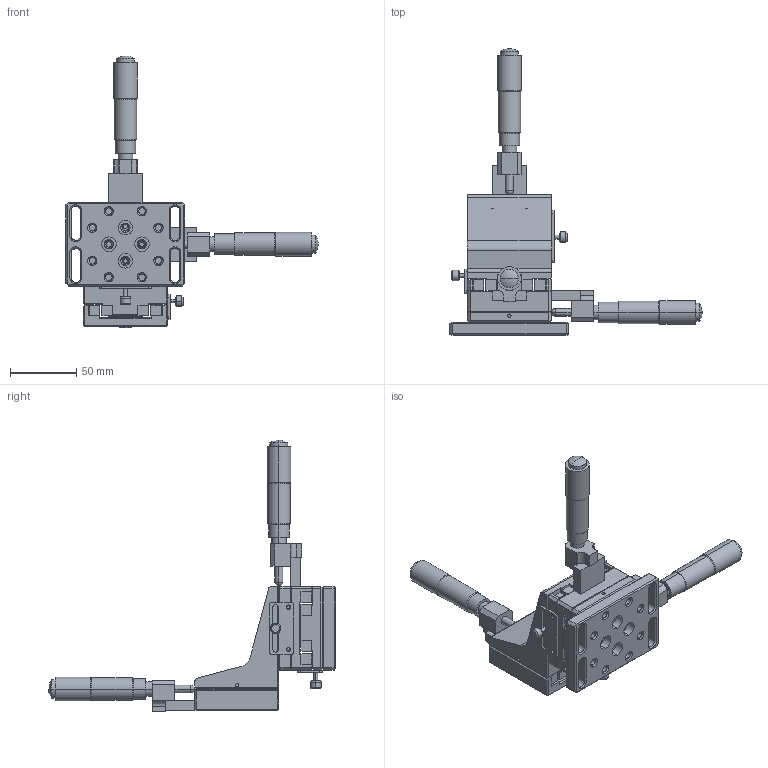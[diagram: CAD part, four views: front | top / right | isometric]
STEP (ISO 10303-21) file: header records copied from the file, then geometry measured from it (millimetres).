
FILE_DESCRIPTION (( 'STEP AP203' ), '1' );
FILE_NAME ('ST300-25H-1.STEP', '2017-12-26T10:29:12', ( 'PC' ), ( 'Microsoft' ), 'SwSTEP 2.0', 'SolidWorks 2015', '' );
FILE_SCHEMA (( 'CONFIG_CONTROL_DESIGN' ));
Length unit declared in the file: millimetre
Products named in the file (9): V3-60絳寢; ST300-25H -8眻褒輸; ST300-25H-11魂雄怢醱; ST300-25H-6峚煦芛釱; ST300-25H-菁啣; ST300-25H-2嘐隅啣; ST300-25-9癹弇え; ST300-25H-3笢潔啣; ST300-25H-1
Assembly tree (21 placements, depth 2):
  ST300-25H-1
    ST300-25H-菁啣
    ST300-25H-2嘐隅啣
    ST300-25H-3笢潔啣
    V3-60絳寢  x12
    ST300-25H -8眻褒輸
    ST300-25H-11魂雄怢醱
    ST300-25H-6峚煦芛釱
    ST300-25-9癹弇え  x3
Bounding box: 190.71 x 216.8 x 205.53 mm (x, y, z)
Volume: 418263.4 mm3; surface area: 149853.6 mm2
Topology: 27 solids, 30 shells, 965 faces, 2407 edges, 1530 vertices
Faces by surface type: plane 421, cylinder 418, cone 108, sphere 14, torus 4
Entity records: 25228 total; most frequent: DIRECTION 4399, CARTESIAN_POINT 4010, ORIENTED_EDGE 3916, EDGE_CURVE 1958, AXIS2_PLACEMENT_3D 1622, VERTEX_POINT 1233, LINE 1155, VECTOR 1155
